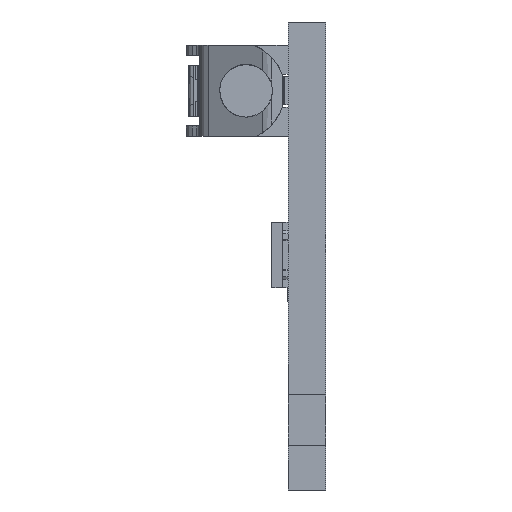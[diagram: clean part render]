
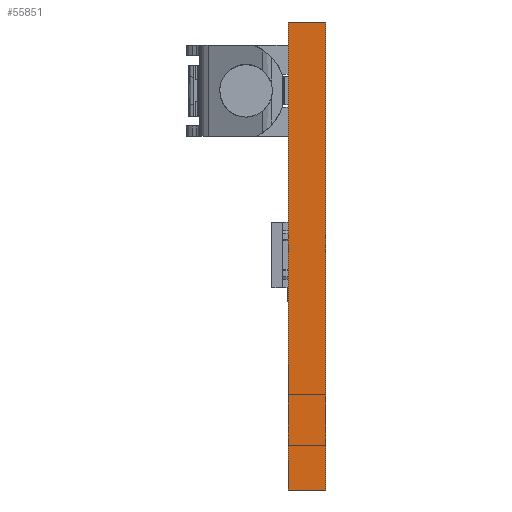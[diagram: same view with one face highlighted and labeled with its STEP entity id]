
A CAD part, left-side view. The second image highlights one B-rep face of the part: STEP entity #55851.
In plain terms, the highlighted planar face has unit normal (-1, 0, 0).
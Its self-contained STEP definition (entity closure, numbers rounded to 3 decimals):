
#6643=DIRECTION('',(0.,0.,1.));
#6644=VECTOR('',#6643,20.);
#6645=CARTESIAN_POINT('',(-279.5,0.,-10.));
#6646=LINE('',#6645,#6644);
#20827=DIRECTION('',(0.,0.,1.));
#20828=VECTOR('',#20827,20.);
#20829=CARTESIAN_POINT('',(-279.5,-1.6,-10.));
#20830=LINE('',#20829,#20828);
#21031=DIRECTION('',(0.,-1.,0.));
#21032=VECTOR('',#21031,1.6);
#21033=CARTESIAN_POINT('',(-279.5,0.,10.));
#21034=LINE('',#21033,#21032);
#21143=DIRECTION('',(0.,-1.,0.));
#21144=VECTOR('',#21143,1.6);
#21145=CARTESIAN_POINT('',(-279.5,0.,-10.));
#21146=LINE('',#21145,#21144);
#21337=CARTESIAN_POINT('',(-279.5,0.,-10.));
#21338=CARTESIAN_POINT('',(-279.5,0.,10.));
#21339=VERTEX_POINT('',#21337);
#21340=VERTEX_POINT('',#21338);
#21345=CARTESIAN_POINT('',(-279.5,-1.6,-10.));
#21346=CARTESIAN_POINT('',(-279.5,-1.6,10.));
#21347=VERTEX_POINT('',#21345);
#21348=VERTEX_POINT('',#21346);
#55840=CARTESIAN_POINT('',(-279.5,0.,-10.));
#55841=DIRECTION('',(-1.,0.,0.));
#55842=DIRECTION('',(0.,0.,1.));
#55843=AXIS2_PLACEMENT_3D('',#55840,#55841,#55842);
#55844=PLANE('',#55843);
#55845=ORIENTED_EDGE('',*,*,#26508,.T.);
#55846=ORIENTED_EDGE('',*,*,#55472,.T.);
#55847=ORIENTED_EDGE('',*,*,#54765,.F.);
#55848=ORIENTED_EDGE('',*,*,#55664,.F.);
#55849=EDGE_LOOP('',(#55845,#55846,#55847,#55848));
#55850=FACE_OUTER_BOUND('',#55849,.F.);
#26508=EDGE_CURVE('',#21339,#21340,#6646,.T.);
#54765=EDGE_CURVE('',#21347,#21348,#20830,.T.);
#55472=EDGE_CURVE('',#21340,#21348,#21034,.T.);
#55664=EDGE_CURVE('',#21339,#21347,#21146,.T.);
#55851=ADVANCED_FACE('',(#55850),#55844,.T.);
